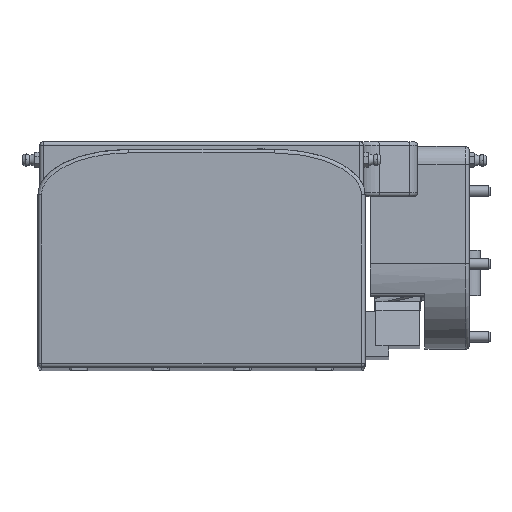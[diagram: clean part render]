
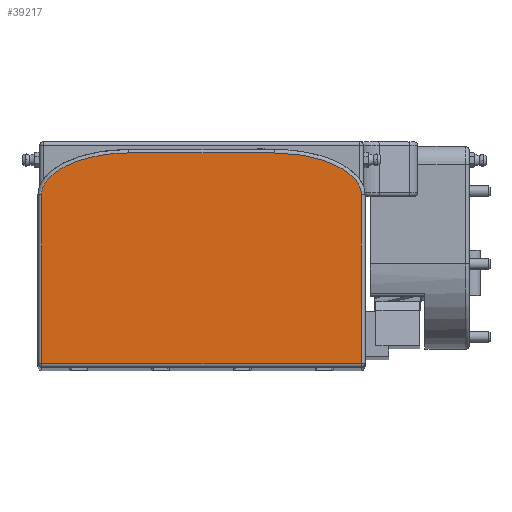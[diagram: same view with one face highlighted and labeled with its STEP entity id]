
A CAD part, top view. The second image highlights one B-rep face of the part: STEP entity #39217.
In plain terms, the highlighted planar face has unit normal (0, 0, 1).
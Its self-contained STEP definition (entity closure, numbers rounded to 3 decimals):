
#356=B_SPLINE_CURVE_WITH_KNOTS('',3,(#57267,#57268,#57269,#57270,#57271,
#57272,#57273,#57274,#57275,#57276,#57277),.UNSPECIFIED.,.F.,.F.,(4,1,1,
1,1,1,1,1,4),(-5.742,-4.101,-2.461,-1.64,
-1.23,-0.82,-0.615,-0.41,
0.),.UNSPECIFIED.);
#357=B_SPLINE_CURVE_WITH_KNOTS('',3,(#57335,#57336,#57337,#57338,#57339,
#57340,#57341,#57342,#57343,#57344),.UNSPECIFIED.,.F.,.F.,(4,1,1,1,1,1,
1,4),(-5.743,-5.332,-4.922,-4.102,
-3.281,-2.461,-1.641,0.),
 .UNSPECIFIED.);
#2869=FACE_OUTER_BOUND('',#5124,.T.);
#5124=EDGE_LOOP('',(#27650,#27651,#27652,#27653,#27654,#27655));
#7526=LINE('',#57209,#11686);
#7527=LINE('',#57281,#11687);
#7528=LINE('',#57356,#11688);
#7530=LINE('',#57359,#11690);
#11686=VECTOR('',#46442,10.);
#11687=VECTOR('',#46449,10.);
#11688=VECTOR('',#46454,10.);
#11690=VECTOR('',#46458,10.);
#16948=VERTEX_POINT('',#57190);
#16951=VERTEX_POINT('',#57200);
#16952=VERTEX_POINT('',#57207);
#16953=VERTEX_POINT('',#57265);
#16954=VERTEX_POINT('',#57279);
#16956=VERTEX_POINT('',#57333);
#21021=EDGE_CURVE('',#16952,#16951,#7526,.T.);
#21023=EDGE_CURVE('',#16953,#16952,#356,.T.);
#21025=EDGE_CURVE('',#16954,#16953,#7527,.T.);
#21027=EDGE_CURVE('',#16956,#16954,#357,.T.);
#21029=EDGE_CURVE('',#16948,#16956,#7528,.T.);
#21031=EDGE_CURVE('',#16951,#16948,#7530,.T.);
#27650=ORIENTED_EDGE('',*,*,#21021,.F.);
#27651=ORIENTED_EDGE('',*,*,#21023,.F.);
#27652=ORIENTED_EDGE('',*,*,#21025,.F.);
#27653=ORIENTED_EDGE('',*,*,#21027,.F.);
#27654=ORIENTED_EDGE('',*,*,#21029,.F.);
#27655=ORIENTED_EDGE('',*,*,#21031,.F.);
#37488=PLANE('',#42008);
#39217=ADVANCED_FACE('',(#2869),#37488,.T.);
#42008=AXIS2_PLACEMENT_3D('',#57369,#46463,#46464);
#46442=DIRECTION('',(0.,-1.,0.));
#46449=DIRECTION('',(1.,0.,0.));
#46454=DIRECTION('',(0.,1.,0.));
#46458=DIRECTION('',(-1.,0.,0.));
#46463=DIRECTION('center_axis',(0.,0.,1.));
#46464=DIRECTION('ref_axis',(1.,0.,0.));
#57190=CARTESIAN_POINT('',(-88.,-45.5,515.));
#57200=CARTESIAN_POINT('',(88.,-45.5,515.));
#57207=CARTESIAN_POINT('',(88.,47.5,515.));
#57209=CARTESIAN_POINT('',(88.,-17.5,515.));
#57265=CARTESIAN_POINT('',(40.,70.5,515.));
#57267=CARTESIAN_POINT('Ctrl Pts',(40.,70.5,515.));
#57268=CARTESIAN_POINT('Ctrl Pts',(45.468,70.5,515.));
#57269=CARTESIAN_POINT('Ctrl Pts',(56.4,69.594,515.));
#57270=CARTESIAN_POINT('Ctrl Pts',(69.669,65.979,515.));
#57271=CARTESIAN_POINT('Ctrl Pts',(78.189,61.512,515.));
#57272=CARTESIAN_POINT('Ctrl Pts',(82.523,58.16,515.));
#57273=CARTESIAN_POINT('Ctrl Pts',(84.876,55.66,515.));
#57274=CARTESIAN_POINT('Ctrl Pts',(86.391,53.378,515.));
#57275=CARTESIAN_POINT('Ctrl Pts',(87.583,50.909,515.));
#57276=CARTESIAN_POINT('Ctrl Pts',(88.,48.867,515.));
#57277=CARTESIAN_POINT('Ctrl Pts',(88.,47.5,515.));
#57279=CARTESIAN_POINT('',(-40.,70.5,515.));
#57281=CARTESIAN_POINT('',(45.,70.5,515.));
#57333=CARTESIAN_POINT('',(-88.,47.5,515.));
#57335=CARTESIAN_POINT('Ctrl Pts',(-88.,47.5,515.));
#57336=CARTESIAN_POINT('Ctrl Pts',(-88.,48.867,515.));
#57337=CARTESIAN_POINT('Ctrl Pts',(-87.446,51.591,515.));
#57338=CARTESIAN_POINT('Ctrl Pts',(-84.635,56.352,515.));
#57339=CARTESIAN_POINT('Ctrl Pts',(-79.378,60.874,515.));
#57340=CARTESIAN_POINT('Ctrl Pts',(-72.118,64.708,515.));
#57341=CARTESIAN_POINT('Ctrl Pts',(-64.345,67.419,515.));
#57342=CARTESIAN_POINT('Ctrl Pts',(-53.666,69.831,515.));
#57343=CARTESIAN_POINT('Ctrl Pts',(-45.469,70.5,515.));
#57344=CARTESIAN_POINT('Ctrl Pts',(-40.,70.5,515.));
#57356=CARTESIAN_POINT('',(-88.,42.5,515.));
#57359=CARTESIAN_POINT('',(-45.,-45.5,515.));
#57369=CARTESIAN_POINT('Origin',(0.,12.5,515.));
